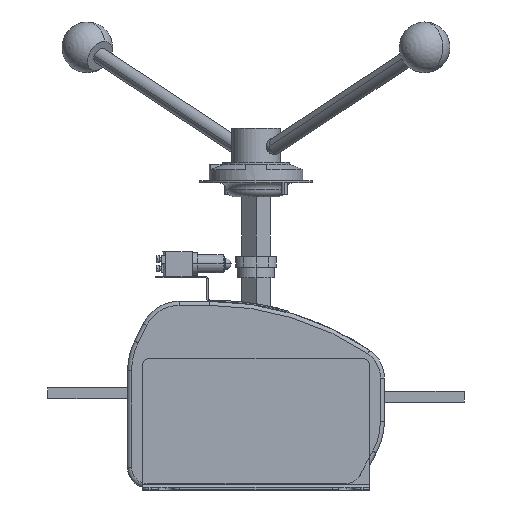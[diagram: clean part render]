
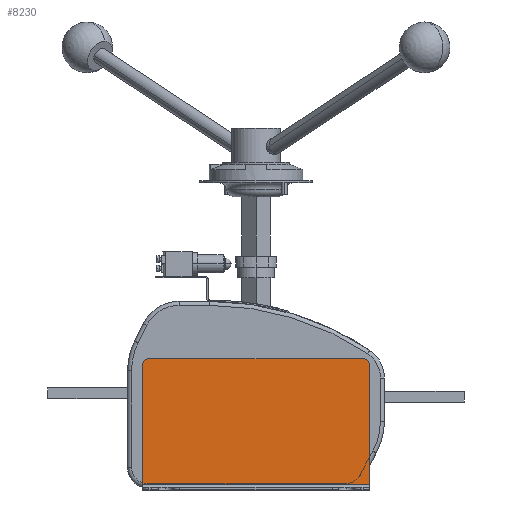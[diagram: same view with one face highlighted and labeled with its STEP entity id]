
A CAD part, left-side view. The second image highlights one B-rep face of the part: STEP entity #8230.
In plain terms, the highlighted planar face has unit normal (-1, 0, 0).
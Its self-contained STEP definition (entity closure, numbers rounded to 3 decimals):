
#239 = DIRECTION ( 'NONE',  ( 0., 0., 1. ) ) ;
#341 = VERTEX_POINT ( 'NONE', #17205 ) ;
#386 = ORIENTED_EDGE ( 'NONE', *, *, #17642, .F. ) ;
#590 = EDGE_CURVE ( 'NONE', #18405, #15761, #3894, .T. ) ;
#644 = VECTOR ( 'NONE', #8164, 1000. ) ;
#851 = CIRCLE ( 'NONE', #13653, 5. ) ;
#863 = AXIS2_PLACEMENT_3D ( 'NONE', #19471, #14764, #239 ) ;
#1998 = PLANE ( 'NONE',  #863 ) ;
#2417 = ORIENTED_EDGE ( 'NONE', *, *, #20498, .F. ) ;
#2426 = ORIENTED_EDGE ( 'NONE', *, *, #15595, .T. ) ;
#3019 = CARTESIAN_POINT ( 'NONE',  ( -366.42, -80., 22. ) ) ;
#3237 = ORIENTED_EDGE ( 'NONE', *, *, #590, .T. ) ;
#3329 = CARTESIAN_POINT ( 'NONE',  ( -366.42, -85., 27. ) ) ;
#3401 = VERTEX_POINT ( 'NONE', #15886 ) ;
#3894 = CIRCLE ( 'NONE', #17890, 5. ) ;
#3953 = CARTESIAN_POINT ( 'NONE',  ( -366.42, 85., -67. ) ) ;
#4441 = VECTOR ( 'NONE', #20176, 1000. ) ;
#4791 = DIRECTION ( 'NONE',  ( 0., 0., 1. ) ) ;
#5468 = LINE ( 'NONE', #20243, #4441 ) ;
#5950 = LINE ( 'NONE', #3329, #644 ) ;
#6793 = DIRECTION ( 'NONE',  ( 0., 0., 1. ) ) ;
#6838 = VERTEX_POINT ( 'NONE', #11204 ) ;
#7851 = CARTESIAN_POINT ( 'NONE',  ( -366.42, 85., 22. ) ) ;
#8164 = DIRECTION ( 'NONE',  ( 0., 1., 0. ) ) ;
#8230 = ADVANCED_FACE ( 'NONE', ( #15597 ), #1998, .T. ) ;
#8360 = CARTESIAN_POINT ( 'NONE',  ( -366.42, 80., 22. ) ) ;
#10594 = VERTEX_POINT ( 'NONE', #10811 ) ;
#10701 = EDGE_CURVE ( 'NONE', #3401, #6838, #851, .T. ) ;
#10811 = CARTESIAN_POINT ( 'NONE',  ( -366.42, 85., -67. ) ) ;
#11204 = CARTESIAN_POINT ( 'NONE',  ( -366.42, -80., 27. ) ) ;
#12086 = EDGE_LOOP ( 'NONE', ( #2426, #20072, #20759, #3237, #2417, #386 ) ) ;
#12248 = CARTESIAN_POINT ( 'NONE',  ( -366.42, 80., 27. ) ) ;
#13653 = AXIS2_PLACEMENT_3D ( 'NONE', #3019, #20680, #4791 ) ;
#14764 = DIRECTION ( 'NONE',  ( -1., 0., 0. ) ) ;
#15022 = VECTOR ( 'NONE', #6793, 1000. ) ;
#15158 = DIRECTION ( 'NONE',  ( 0., 0., 1. ) ) ;
#15595 = EDGE_CURVE ( 'NONE', #341, #3401, #16285, .T. ) ;
#15597 = FACE_OUTER_BOUND ( 'NONE', #12086, .T. ) ;
#15761 = VERTEX_POINT ( 'NONE', #7851 ) ;
#15886 = CARTESIAN_POINT ( 'NONE',  ( -366.42, -85., 22. ) ) ;
#16085 = DIRECTION ( 'NONE',  ( 0., 0., 1. ) ) ;
#16285 = LINE ( 'NONE', #17733, #15022 ) ;
#17018 = LINE ( 'NONE', #3953, #20263 ) ;
#17205 = CARTESIAN_POINT ( 'NONE',  ( -366.42, -85., -67. ) ) ;
#17642 = EDGE_CURVE ( 'NONE', #341, #10594, #5468, .T. ) ;
#17733 = CARTESIAN_POINT ( 'NONE',  ( -366.42, -85., -67. ) ) ;
#17890 = AXIS2_PLACEMENT_3D ( 'NONE', #8360, #17899, #16085 ) ;
#17899 = DIRECTION ( 'NONE',  ( -1., 0., 0. ) ) ;
#18405 = VERTEX_POINT ( 'NONE', #12248 ) ;
#19471 = CARTESIAN_POINT ( 'NONE',  ( -366.42, -85., -67. ) ) ;
#20072 = ORIENTED_EDGE ( 'NONE', *, *, #10701, .T. ) ;
#20176 = DIRECTION ( 'NONE',  ( 0., 1., 0. ) ) ;
#20243 = CARTESIAN_POINT ( 'NONE',  ( -366.42, -85., -67. ) ) ;
#20263 = VECTOR ( 'NONE', #15158, 1000. ) ;
#20283 = EDGE_CURVE ( 'NONE', #6838, #18405, #5950, .T. ) ;
#20498 = EDGE_CURVE ( 'NONE', #10594, #15761, #17018, .T. ) ;
#20680 = DIRECTION ( 'NONE',  ( -1., 0., 0. ) ) ;
#20759 = ORIENTED_EDGE ( 'NONE', *, *, #20283, .T. ) ;
